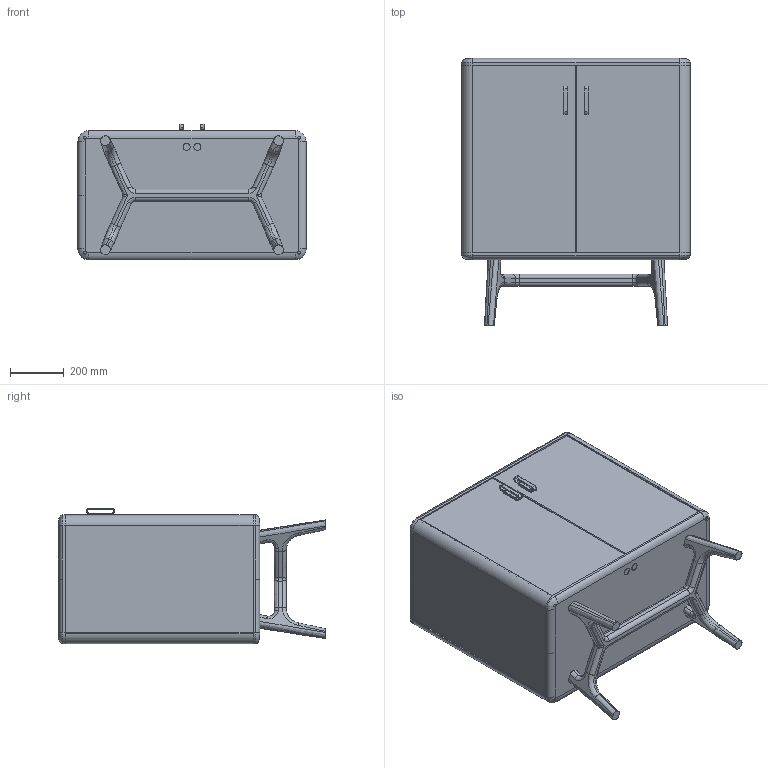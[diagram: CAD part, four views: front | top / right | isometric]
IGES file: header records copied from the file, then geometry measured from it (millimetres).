
Start section: SolidWorks IGES file using analytic representation for surfaces
Global section: file name: R:\Box Sync\Neri & Hu\785_786 Solo Wood Cabinets and Side Table\sales related\3D IGES\785 Solo_Tall Wood Cabinet_va_prmt.IGS; native system: SolidWorks 2016; preprocessor: SolidWorks 2016; author: ruben; date: 180201.161150; units: millimetre
Bounding box: 850 x 995 x 504.26 mm (x, y, z)
Volume: 56720978.9 mm3; surface area: 7482268.6 mm2
Topology: 15 solids, 15 shells, 487 faces, 1271 edges, 828 vertices
Faces by surface type: plane 235, revolution 206, bspline 46
